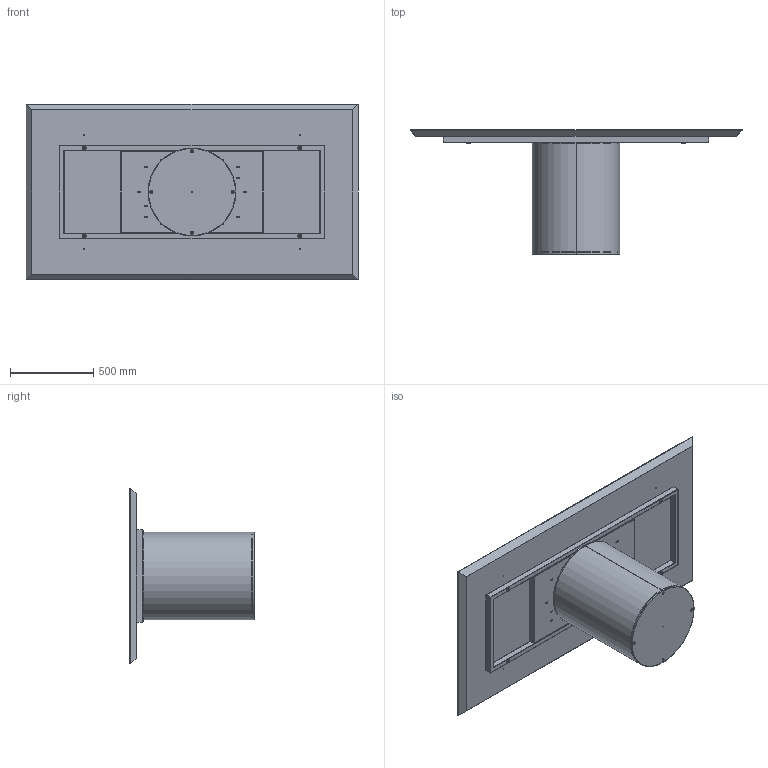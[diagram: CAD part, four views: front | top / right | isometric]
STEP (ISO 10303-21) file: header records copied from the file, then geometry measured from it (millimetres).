
FILE_DESCRIPTION (( 'STEP AP203' ), '1' );
FILE_NAME ('CI21W.STEP', '2024-08-08T07:22:40', ( '' ), ( '' ), 'SwSTEP 2.0', 'SolidWorks 2022', '' );
FILE_SCHEMA (( 'CONFIG_CONTROL_DESIGN' ));
Length unit declared in the file: millimetre
Products named in the file (12): C2B000000_01-00-struttura cilindro D.530mm; TTAV01_02-05-VASSOIO IRRIGIDIMENTO TELAIO UNIVERSALE; COLLO TELAIO UNIVERSALE TTAV01 CON FERRAMENTA_MTG TOP LEGNO-MARMO-KING; C2B000000-03-CILINDRO BASE D.530mm_Normale; W2XCMXX-00-Piani Rettangolari in legno_2000 x 1060; CI21W; M8xXXmm_M8x55mm; C2B000000_02-01-ZAVORRA IN FERRO D.530mm; TTAV01-05-TELAIO UNIVERSALE X TAVOLI 180 240cm; rondella M8_8X24; TTAV01_01-05-TELAIO UNIVERSALE X TAVOLI 180 240cm; M8xXXmm_hex_M8X20mm
Assembly tree (20 placements, depth 4):
  CI21W
    C2B000000-03-CILINDRO BASE D.530mm_Normale
      C2B000000_01-00-struttura cilindro D.530mm
      C2B000000_02-01-ZAVORRA IN FERRO D.530mm
      M8xXXmm_hex_M8X20mm  x4
    COLLO TELAIO UNIVERSALE TTAV01 CON FERRAMENTA_MTG TOP LEGNO-MARMO-KING
      TTAV01-05-TELAIO UNIVERSALE X TAVOLI 180 240cm
        TTAV01_02-05-VASSOIO IRRIGIDIMENTO TELAIO UNIVERSALE
        TTAV01_01-05-TELAIO UNIVERSALE X TAVOLI 180 240cm
      rondella M8_8X24  x4
      M8xXXmm_M8x55mm  x4
    W2XCMXX-00-Piani Rettangolari in legno_2000 x 1060
Bounding box: 2000 x 748 x 1060 mm (x, y, z)
Volume: 85514149.2 mm3; surface area: 9458870.2 mm2
Topology: 20 solids, 20 shells, 752 faces, 1774 edges, 1029 vertices
Faces by surface type: plane 300, cylinder 268, cone 106, torus 56, sphere 22
Entity records: 16535 total; most frequent: DIRECTION 2743, CARTESIAN_POINT 2634, ORIENTED_EDGE 2440, EDGE_CURVE 1220, AXIS2_PLACEMENT_3D 1027, VERTEX_POINT 752, LINE 689, VECTOR 689
